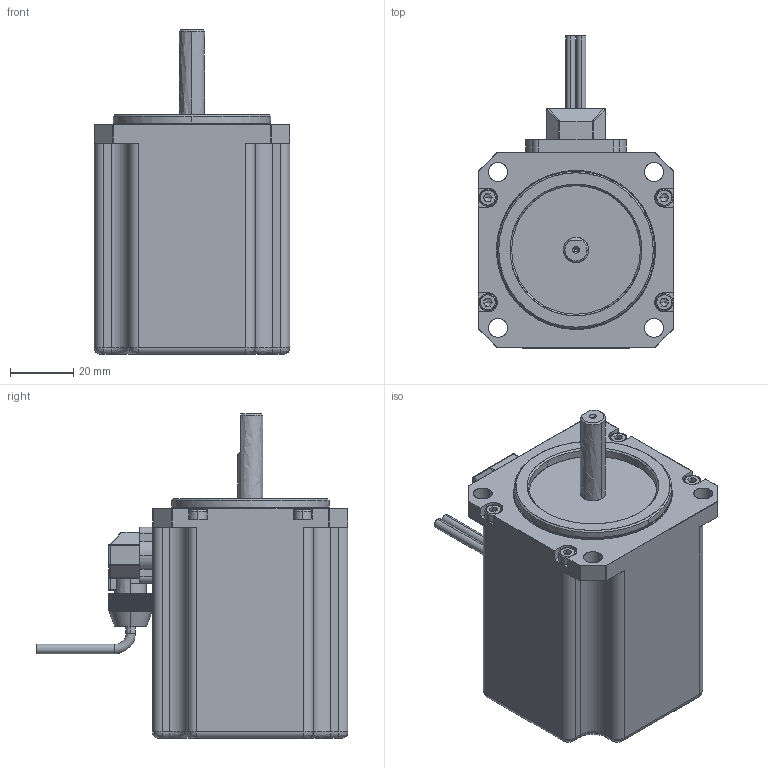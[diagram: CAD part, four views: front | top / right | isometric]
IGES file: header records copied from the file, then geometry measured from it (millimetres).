
Start section: SolidWorks IGES file using analytic representation for surfaces
Global section: file name: C:\Users\Administrator\Desktop\NCA30064-T.IGS; native system: SolidWorks 2016; preprocessor: SolidWorks 2016; author: Administrator; date: 180717.131902; units: millimetre
Bounding box: 62 x 99 x 103 mm (x, y, z)
Surface area: 30910.1 mm2 (no closed solid volume)
Topology: 0 solids, 0 shells, 673 faces, 8540 edges, 8481 vertices
Faces by surface type: revolution 436, bspline 237
